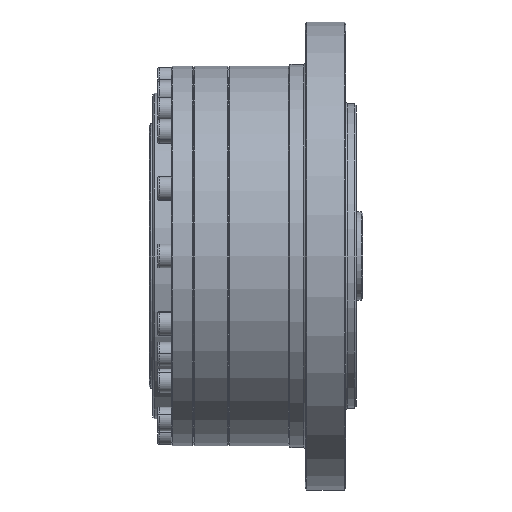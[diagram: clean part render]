
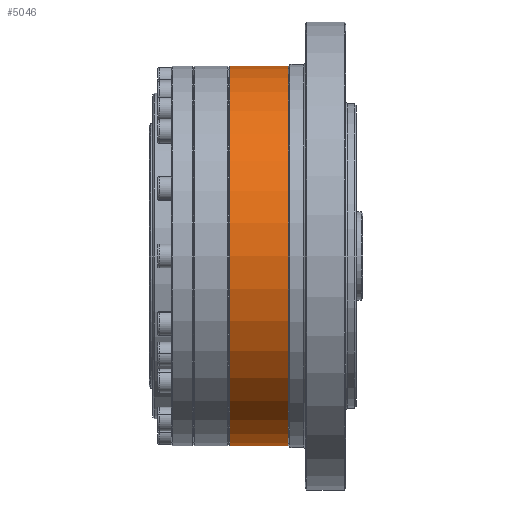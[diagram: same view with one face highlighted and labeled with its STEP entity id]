
A CAD part, front view. The second image highlights one B-rep face of the part: STEP entity #5046.
In plain terms, the highlighted cylindrical face has radius 56 mm (diameter 112 mm), a partial arc.
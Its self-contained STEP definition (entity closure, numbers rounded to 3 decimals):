
#139 = CARTESIAN_POINT ( 'NONE',  ( 63.433, 0., 56. ) ) ;
#187 = ORIENTED_EDGE ( 'NONE', *, *, #5720, .T. ) ;
#872 = CIRCLE ( 'NONE', #2571, 56. ) ;
#1213 = CARTESIAN_POINT ( 'NONE',  ( 42.926, 0., -56. ) ) ;
#1604 = VERTEX_POINT ( 'NONE', #15627 ) ;
#2107 = FACE_OUTER_BOUND ( 'NONE', #17386, .T. ) ;
#2282 = DIRECTION ( 'NONE',  ( 1., 0., 0. ) ) ;
#2571 = AXIS2_PLACEMENT_3D ( 'NONE', #15617, #2945, #17727 ) ;
#2709 = DIRECTION ( 'NONE',  ( 0., 0., -1. ) ) ;
#2945 = DIRECTION ( 'NONE',  ( 1., 0., 0. ) ) ;
#3170 = VERTEX_POINT ( 'NONE', #25076 ) ;
#4299 = EDGE_CURVE ( 'NONE', #1604, #3170, #4899, .T. ) ;
#4778 = VERTEX_POINT ( 'NONE', #5954 ) ;
#4899 = LINE ( 'NONE', #139, #26676 ) ;
#5046 = ADVANCED_FACE ( 'NONE', ( #2107 ), #12713, .T. ) ;
#5720 = EDGE_CURVE ( 'NONE', #4778, #11279, #21250, .T. ) ;
#5954 = CARTESIAN_POINT ( 'NONE',  ( 25.726, 0., -56. ) ) ;
#6459 = ORIENTED_EDGE ( 'NONE', *, *, #16646, .T. ) ;
#6658 = AXIS2_PLACEMENT_3D ( 'NONE', #21647, #6868, #2709 ) ;
#6868 = DIRECTION ( 'NONE',  ( 1., 0., 0. ) ) ;
#8521 = DIRECTION ( 'NONE',  ( 1., 0., 0. ) ) ;
#10205 = CARTESIAN_POINT ( 'NONE',  ( 42.926, 0., 0. ) ) ;
#10778 = EDGE_CURVE ( 'NONE', #3170, #11279, #23616, .T. ) ;
#11279 = VERTEX_POINT ( 'NONE', #1213 ) ;
#12338 = DIRECTION ( 'NONE',  ( 0., 0., -1. ) ) ;
#12713 = CYLINDRICAL_SURFACE ( 'NONE', #6658, 56. ) ;
#15617 = CARTESIAN_POINT ( 'NONE',  ( 25.726, 0., 0. ) ) ;
#15627 = CARTESIAN_POINT ( 'NONE',  ( 25.726, 0., 56. ) ) ;
#15653 = VECTOR ( 'NONE', #8521, 1000. ) ;
#16646 = EDGE_CURVE ( 'NONE', #1604, #4778, #872, .T. ) ;
#17114 = ORIENTED_EDGE ( 'NONE', *, *, #4299, .F. ) ;
#17386 = EDGE_LOOP ( 'NONE', ( #17114, #6459, #187, #18641 ) ) ;
#17727 = DIRECTION ( 'NONE',  ( 0., 0., -1. ) ) ;
#18641 = ORIENTED_EDGE ( 'NONE', *, *, #10778, .F. ) ;
#21250 = LINE ( 'NONE', #23284, #15653 ) ;
#21647 = CARTESIAN_POINT ( 'NONE',  ( 63.433, 0., 0. ) ) ;
#23284 = CARTESIAN_POINT ( 'NONE',  ( 63.433, 0., -56. ) ) ;
#23616 = CIRCLE ( 'NONE', #25753, 56. ) ;
#24942 = DIRECTION ( 'NONE',  ( 1., 0., 0. ) ) ;
#25076 = CARTESIAN_POINT ( 'NONE',  ( 42.926, 0., 56. ) ) ;
#25753 = AXIS2_PLACEMENT_3D ( 'NONE', #10205, #24942, #12338 ) ;
#26676 = VECTOR ( 'NONE', #2282, 1000. ) ;
